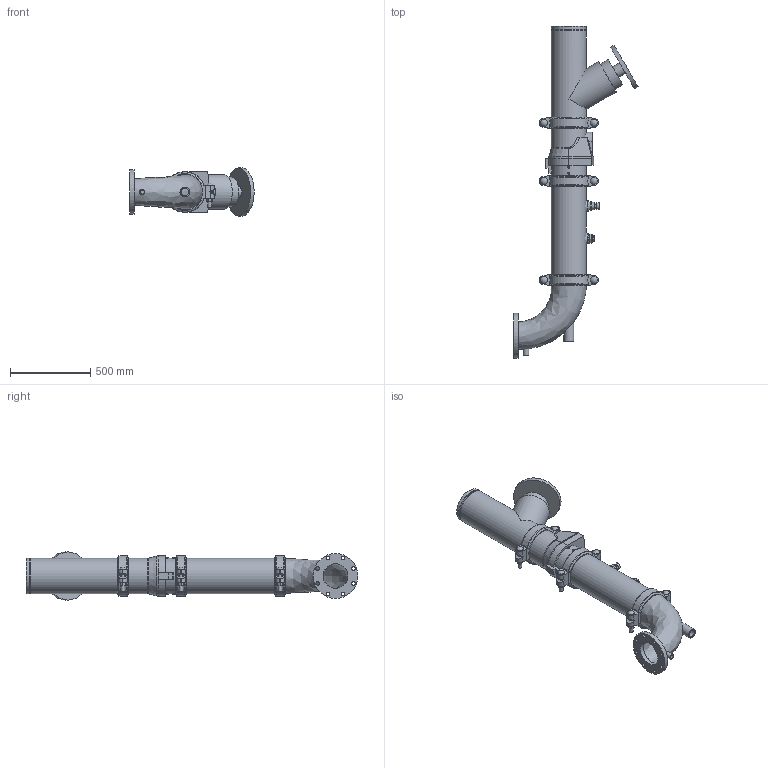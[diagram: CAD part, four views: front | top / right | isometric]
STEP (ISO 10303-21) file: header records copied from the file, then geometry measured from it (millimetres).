
FILE_DESCRIPTION(/* description */ ('VIC DVI PUMP DROP HORZ S/383 (OGSxFLG) (S/924-0.75)','CAx-IF Rec.Pracs.---Representation and Presentation of Product Manufacturing Information (PMI)---4.0---2014-10-13'),/* implementation_level */ '2;1');
FILE_NAME(/* name */ 'C:\Users\kkamble\AppData\Roaming\Autodesk\ApplicationPlugins\Victaulic.Temp\A821\CL 150_Series 383 (OGSxFLG)_924 (0.75)_08.0x06.0 (200x150).stp',/* time_stamp */ '2022-03-16T18:47:04+05:00',/* author */ ('kkamble'),/* organization */ ('Victaulic'),/* preprocessor_version */ 'ST-DEVELOPER v17.2',/* originating_system */ 'Autodesk Inventor 2019',/* authorisation */ '');
FILE_SCHEMA (('AP242_MANAGED_MODEL_BASED_3D_ENGINEERING_MIM_LF { 1 0 10303 442 1 1 4 }'));
Length unit declared in the file: inch
Products named in the file (8): 383_924 (0.75)-08.0x06.0; Pipe-08.0; 789-08.0; 177N-08.0; 779-08.0; 924-04.0x0.75; 923-04.0x0.75; R100F-08.0x06.0
Assembly tree (9 placements, depth 2):
  383_924 (0.75)-08.0x06.0
    177N-08.0  x3
    Pipe-08.0
    789-08.0
    779-08.0
    924-04.0x0.75
    923-04.0x0.75
    R100F-08.0x06.0
Bounding box: 774.7 x 2070.1 x 299.97 mm (x, y, z)
Volume: 29153943.3 mm3; surface area: 3964902.7 mm2
Topology: 9 solids, 9 shells, 517 faces, 1357 edges, 911 vertices
Faces by surface type: plane 296, cylinder 174, torus 18, cone 17, sphere 6, bspline 6
Full cylindrical faces by diameter (mm): 13.716 x4, 22.352 x8, 23.774 x6, 26.67 x3, 34.29 x1, 38.608 x1, 42.85 x6, 45.974 x4, 48.26 x1, 55.626 x2, 60.96 x1, 76.2 x1, 154.051 x1, 183.515 x1, 202.717 x4, 206.375 x3, 214.401 x7, 219.075 x18, 279.4 x1, 299.974 x1
Entity records: 12505 total; most frequent: CARTESIAN_POINT 3488, DIRECTION 1841, ORIENTED_EDGE 1694, EDGE_CURVE 847, AXIS2_PLACEMENT_3D 709, VERTEX_POINT 575, LINE 423, VECTOR 423
